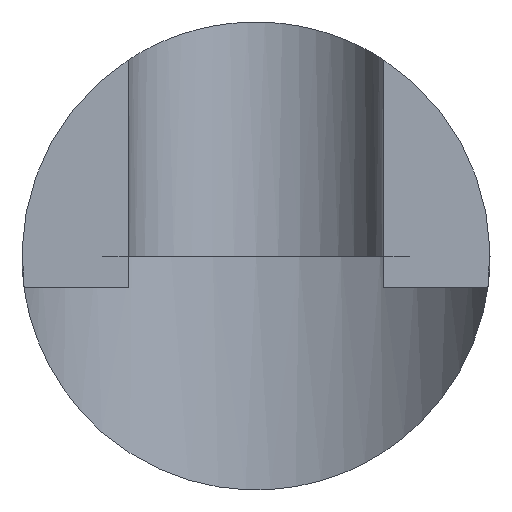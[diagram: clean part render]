
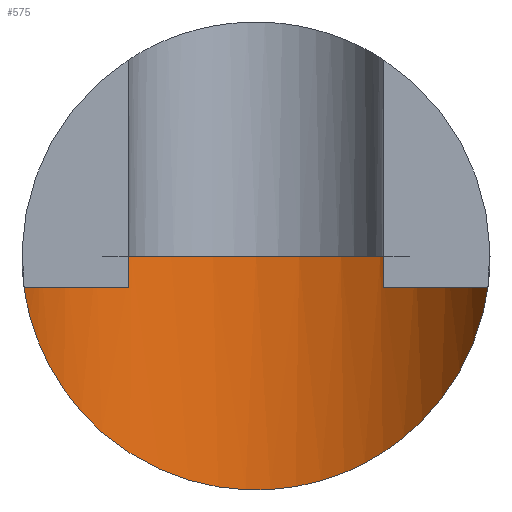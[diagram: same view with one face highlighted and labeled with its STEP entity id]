
A CAD part, front view. The second image highlights one B-rep face of the part: STEP entity #575.
In plain terms, the highlighted cylindrical face has radius 8 mm (diameter 16 mm), a partial arc.
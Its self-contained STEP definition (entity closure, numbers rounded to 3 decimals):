
#127=CARTESIAN_POINT('',(-7.5,-80.216,0.));
#128=CARTESIAN_POINT('',(-7.5,-80.216,-0.245));
#129=CARTESIAN_POINT('',(-7.477,-80.151,
-0.731));
#130=CARTESIAN_POINT('',(-7.368,-79.876,
-1.462));
#131=CARTESIAN_POINT('',(-7.202,-79.508,
-2.128));
#132=CARTESIAN_POINT('',(-6.982,-79.085,
-2.764));
#133=CARTESIAN_POINT('',(-6.716,-78.642,
-3.359));
#134=CARTESIAN_POINT('',(-6.399,-78.187,
-3.931));
#135=CARTESIAN_POINT('',(-6.024,-77.725,
-4.484));
#136=CARTESIAN_POINT('',(-5.616,-77.293,
-4.984));
#137=CARTESIAN_POINT('',(-5.182,-76.894,
-5.436));
#138=CARTESIAN_POINT('',(-4.615,-76.45,
-5.931));
#139=CARTESIAN_POINT('',(-3.91,-76.002,
-6.422));
#140=CARTESIAN_POINT('',(-3.055,-75.583,
-6.875));
#141=CARTESIAN_POINT('',(-2.026,-75.232,
-7.253));
#142=CARTESIAN_POINT('',(-0.85,-75.017,
-7.482));
#143=CARTESIAN_POINT('',(0.3,-74.977,
-7.525));
#144=CARTESIAN_POINT('',(1.512,-75.112,-7.381));
#145=CARTESIAN_POINT('',(2.671,-75.43,-7.04));
#146=CARTESIAN_POINT('',(3.646,-75.856,-6.58));
#147=CARTESIAN_POINT('',(4.457,-76.337,-6.055));
#148=CARTESIAN_POINT('',(5.109,-76.83,-5.508));
#149=CARTESIAN_POINT('',(5.598,-77.273,-5.007));
#150=CARTESIAN_POINT('',(6.034,-77.734,-4.473));
#151=CARTESIAN_POINT('',(6.427,-78.224,-3.886));
#152=CARTESIAN_POINT('',(6.743,-78.685,-3.304));
#153=CARTESIAN_POINT('',(6.998,-79.114,-2.722));
#154=CARTESIAN_POINT('',(7.208,-79.521,-2.107));
#155=CARTESIAN_POINT('',(7.369,-79.879,-1.453));
#156=CARTESIAN_POINT('',(7.476,-80.149,
-0.738));
#157=CARTESIAN_POINT('',(7.5,-80.216,-0.249));
#158=CARTESIAN_POINT('',(7.5,-80.216,0.));
#206=CARTESIAN_POINT('',(0.,-83.,0.));
#207=DIRECTION('',(0.,0.,-1.));
#208=DIRECTION('',(-0.938,0.348,0.));
#209=AXIS2_PLACEMENT_3D('',#206,#207,#208);
#402=CARTESIAN_POINT('',(7.5,-80.216,0.));
#404=VERTEX_POINT('',#402);
#406=CARTESIAN_POINT('',(-7.5,-80.216,0.));
#408=VERTEX_POINT('',#406);
#565=CARTESIAN_POINT('',(0.,-83.,0.));
#566=DIRECTION('',(0.,0.,-1.));
#567=DIRECTION('',(1.,0.,0.));
#568=AXIS2_PLACEMENT_3D('',#565,#566,#567);
#569=CYLINDRICAL_SURFACE('',#568,8.);
#570=ORIENTED_EDGE('',*,*,#557,.F.);
#572=ORIENTED_EDGE('',*,*,#571,.T.);
#573=EDGE_LOOP('',(#570,#572));
#574=FACE_OUTER_BOUND('',#573,.F.);
#575=ADVANCED_FACE('',(#574),#569,.F.);
#159=B_SPLINE_CURVE_WITH_KNOTS('',3,(#127,#128,#129,#130,#131,#132,#133,#134,
#135,#136,#137,#138,#139,#140,#141,#142,#143,#144,#145,#146,#147,#148,#149,#150,
#151,#152,#153,#154,#155,#156,#157,#158),.UNSPECIFIED.,.F.,.F.,(4,1,1,1,1,1,1,1,
1,1,1,1,1,1,1,1,1,1,1,1,1,1,1,1,1,1,1,1,1,4),(0.,0.034,
0.069,0.103,0.138,0.172,
0.207,0.241,0.276,0.31,
0.345,0.379,0.414,0.448,
0.483,0.517,0.552,0.586,
0.621,0.655,0.69,0.724,
0.759,0.793,0.828,0.862,
0.897,0.931,0.966,1.),.UNSPECIFIED.);
#210=CIRCLE('',#209,8.);
#557=EDGE_CURVE('',#408,#404,#159,.T.);
#571=EDGE_CURVE('',#408,#404,#210,.T.);
